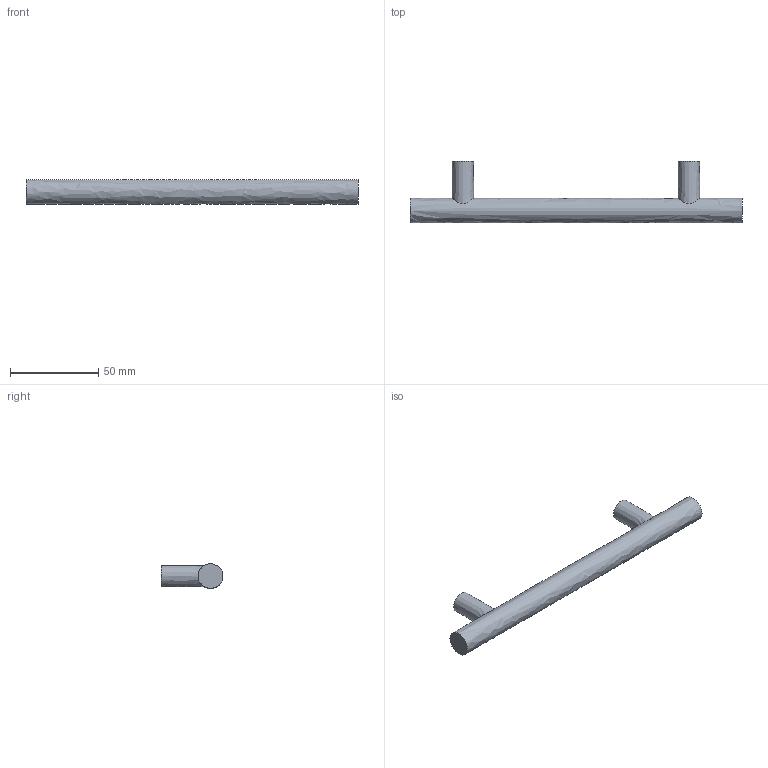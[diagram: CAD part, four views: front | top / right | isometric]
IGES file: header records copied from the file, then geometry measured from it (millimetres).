
Start section: Data from Parasolid IGES Translator 15.0.47, Copyright(c) 2006 Siemens P LM Software. All Rights Reserved.
Global section: file name: 9071046.igs; native system:  By UGS Corp.; preprocessor: XPlus GENERIC/IGES 3.0; author: Noname; organization: Noname; date: 20140122.181359; units: millimetre
Bounding box: 188 x 35 x 14 mm (x, y, z)
Surface area: 10548.4 mm2 (no closed solid volume)
Topology: 0 solids, 0 shells, 11 faces, 30 edges, 22 vertices
Faces by surface type: extrusion 6, revolution 5
